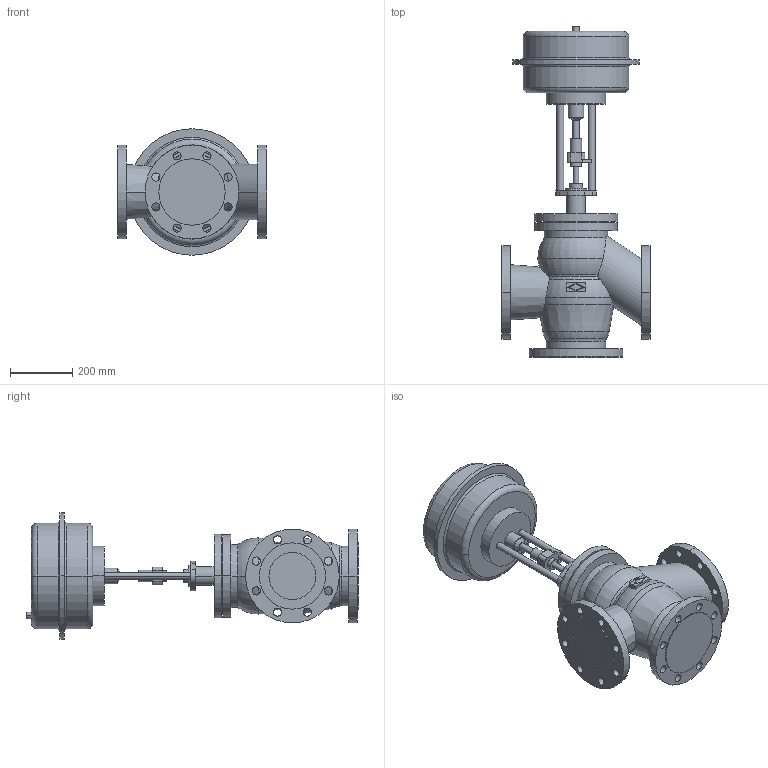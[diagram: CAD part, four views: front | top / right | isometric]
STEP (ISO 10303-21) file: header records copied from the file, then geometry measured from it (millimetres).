
FILE_DESCRIPTION(('OneSpaceDesigner STEP Export'),'2;1');
FILE_NAME('c000000703.stp','2006-09-19T10:21:43',(''),(''),'OneSpace Designer STEP processor for AP214 (Solid Model)','OneSpace Designer 13.20A 18-Aug-2005 (C) CoCreate Software GmbH','');
FILE_SCHEMA(('AUTOMOTIVE_DESIGN { 1 0 10303 214 1 1 1 1 }'));
Length unit declared in the file: millimetre
Products named in the file (2): 1; 2
Bounding box: 480 x 1063 x 405 mm (x, y, z)
Volume: 48937881.8 mm3; surface area: 1557521.3 mm2
Topology: 2 solids, 2 shells, 214 faces, 523 edges, 343 vertices
Faces by surface type: cylinder 114, plane 68, torus 26, cone 6
Entity records: 5786 total; most frequent: CARTESIAN_POINT 1160, ORIENTED_EDGE 1046, DIRECTION 818, EDGE_CURVE 523, VERTEX_POINT 343, AXIS2_PLACEMENT_3D 305, EDGE_LOOP 292, FACE_OUTER_BOUND 214
